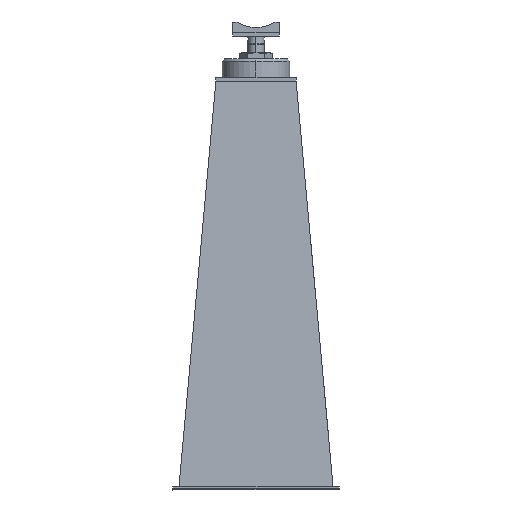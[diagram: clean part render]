
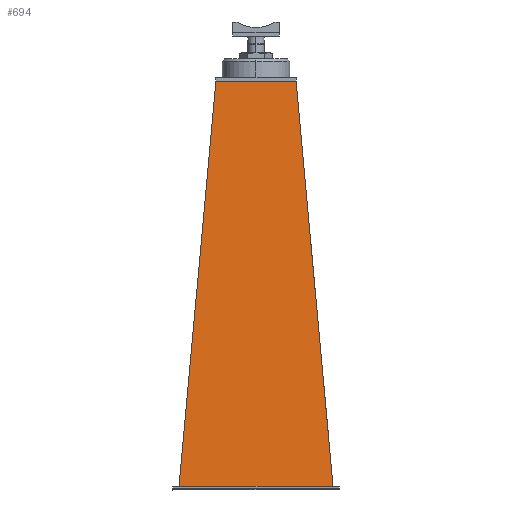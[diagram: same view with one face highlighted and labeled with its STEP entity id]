
A CAD part, left-side view. The second image highlights one B-rep face of the part: STEP entity #694.
In plain terms, the highlighted planar face has unit normal (-0.996, 0, 0.091).
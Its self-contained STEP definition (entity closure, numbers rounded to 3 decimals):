
#694=ADVANCED_FACE('',(#1398),#1399,.T.);
#1398=FACE_OUTER_BOUND('',#2152,.T.);
#1399=PLANE('',#2153);
#2152=EDGE_LOOP('',(#4229,#4230,#4231,#4232));
#2153=AXIS2_PLACEMENT_3D('',#4233,#4234,#4235);
#4229=ORIENTED_EDGE('',*,*,#5144,.T.);
#4230=ORIENTED_EDGE('',*,*,#4892,.F.);
#4231=ORIENTED_EDGE('',*,*,#5132,.T.);
#4232=ORIENTED_EDGE('',*,*,#5159,.T.);
#4233=CARTESIAN_POINT('',(389.057,598.978,259.698));
#4234=DIRECTION('',(-0.996,0.,0.091));
#4235=DIRECTION('',(0.,1.0,0.));
#4892=EDGE_CURVE('',#5912,#5907,#5914,.F.);
#5132=EDGE_CURVE('',#5912,#6226,#6228,.F.);
#5144=EDGE_CURVE('',#6247,#5907,#6250,.T.);
#5159=EDGE_CURVE('',#6226,#6247,#6269,.F.);
#5907=VERTEX_POINT('',#7647);
#5912=VERTEX_POINT('',#7654);
#5914=LINE('',#7657,#7658);
#6226=VERTEX_POINT('',#8226);
#6228=LINE('',#8229,#8230);
#6247=VERTEX_POINT('',#8257);
#6250=LINE('',#8262,#8263);
#6269=LINE('',#8290,#8291);
#7647=CARTESIAN_POINT('',(329.032,411.965,-397.575));
#7654=CARTESIAN_POINT('',(389.032,471.965,259.425));
#7657=CARTESIAN_POINT('',(389.59,472.523,265.535));
#7658=VECTOR('',#8822,1.);
#8226=CARTESIAN_POINT('',(389.032,601.99,259.425));
#8229=CARTESIAN_POINT('',(389.032,567.978,259.425));
#8230=VECTOR('',#8992,1.);
#8257=CARTESIAN_POINT('',(329.032,661.99,-397.575));
#8262=CARTESIAN_POINT('',(329.032,567.978,-397.575));
#8263=VECTOR('',#9003,1.);
#8290=CARTESIAN_POINT('',(389.59,601.432,265.535));
#8291=VECTOR('',#9012,1.);
#8822=DIRECTION('',(0.091,0.091,0.992));
#8992=DIRECTION('',(0.,-1.0,0.));
#9003=DIRECTION('',(0.,-1.0,0.));
#9012=DIRECTION('',(0.091,-0.091,0.992));
